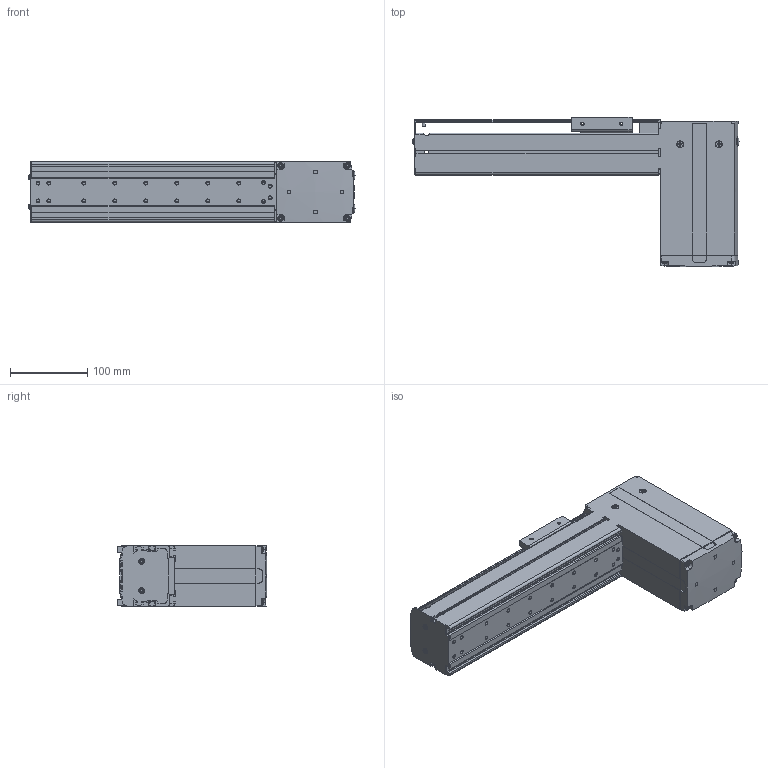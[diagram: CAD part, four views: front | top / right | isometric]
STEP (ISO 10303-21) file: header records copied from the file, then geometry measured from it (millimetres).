
FILE_DESCRIPTION((''),'2;1');
FILE_NAME('BE10_-BU-S_N-15_IGS_PRT','2017-06-18T',(' '),(''),'PRO/ENGINEER BY PARAMETRIC TECHNOLOGY CORPORATION, 2015030','PRO/ENGINEER BY PARAMETRIC TECHNOLOGY CORPORATION, 2015030','');
FILE_SCHEMA(('CONFIG_CONTROL_DESIGN'));
Length unit declared in the file: millimetre
Products named in the file (1): BE10_-BU-S_N-15_IGS_PRT
Bounding box: 420.8 x 193 x 78 mm (x, y, z)
Volume: 695426.6 mm3; surface area: 492356.3 mm2
Topology: 7 solids, 90 shells, 1781 faces, 4833 edges, 3157 vertices
Faces by surface type: plane 884, cylinder 736, cone 119, sphere 21, torus 19, bspline 2
Entity records: 57312 total; most frequent: CARTESIAN_POINT 11496, DIRECTION 9731, ORIENTED_EDGE 9246, EDGE_CURVE 4779, AXIS2_PLACEMENT_3D 3401, VERTEX_POINT 3157, VECTOR 2929, LINE 2929
